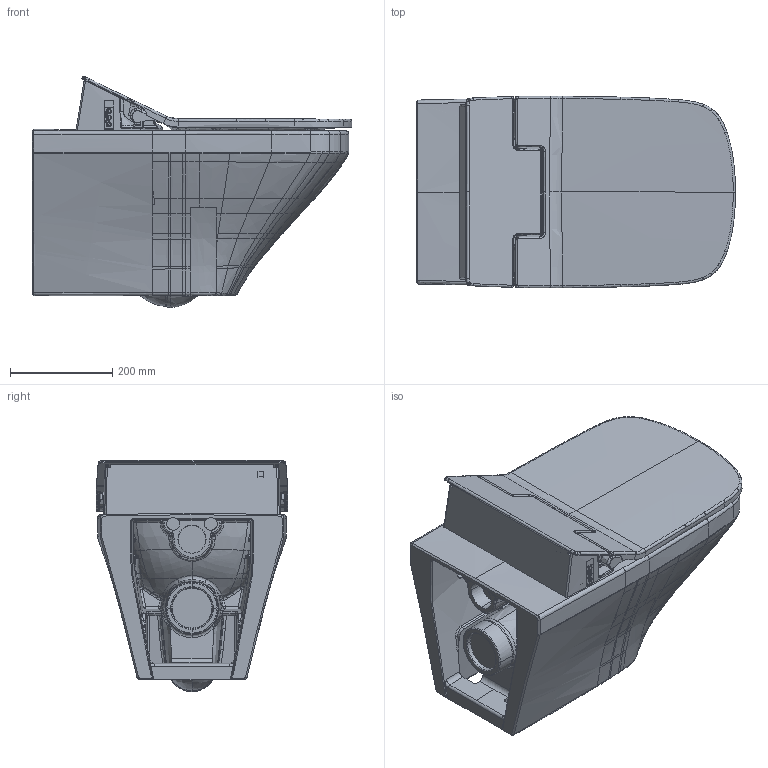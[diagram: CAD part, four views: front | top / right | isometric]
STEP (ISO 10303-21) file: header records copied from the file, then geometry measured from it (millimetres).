
FILE_DESCRIPTION((''),'2;1');
FILE_NAME('C:\Users\Administrator\Desktop\NEWS 2015 Step 1\SensoWash Slim 611200\3d\stp\254259_611200.stp','2015-07-06T10:58:07',('Administrator'),(''),'Autodesk Inventor 2011','Autodesk Inventor 2011','');
FILE_SCHEMA(('CONFIG_CONTROL_DESIGN'));
Length unit declared in the file: millimetre
Products named in the file (3): 254259_611200; 254259; 611200
Assembly tree (2 placements, depth 2):
  254259_611200
    254259
    611200
Bounding box: 625.28 x 375.42 x 452.98 mm (x, y, z)
Volume: 23953295.6 mm3; surface area: 2285598.2 mm2
Topology: 20 solids, 20 shells, 3988 faces, 14463 edges, 10591 vertices
Faces by surface type: bspline 2343, plane 686, cylinder 633, sphere 152, torus 105, cone 69
Full cylindrical faces by diameter (mm): 0.613 x1, 0.628 x1, 0.695 x1, 0.713 x1, 0.782 x1, 0.803 x1, 0.916 x1, 0.94 x1, 1.091 x1, 1.119 x1, 2.4 x2, 3.4 x3, 3.5 x4, 4 x1, 5.5 x1, 6 x2, 6.5 x1, 7 x4, 8 x1, 9 x2, 10 x11, 12 x2, 16 x4, 18 x2, 19.8 x6, 25 x2, 40 x2
Entity records: 392525 total; most frequent: CARTESIAN_POINT 280404, ORIENTED_EDGE 28492, DIRECTION 14587, EDGE_CURVE 14246, VERTEX_POINT 10526, B_SPLINE_CURVE_WITH_KNOTS 6433, AXIS2_PLACEMENT_3D 5124, VECTOR 4339
